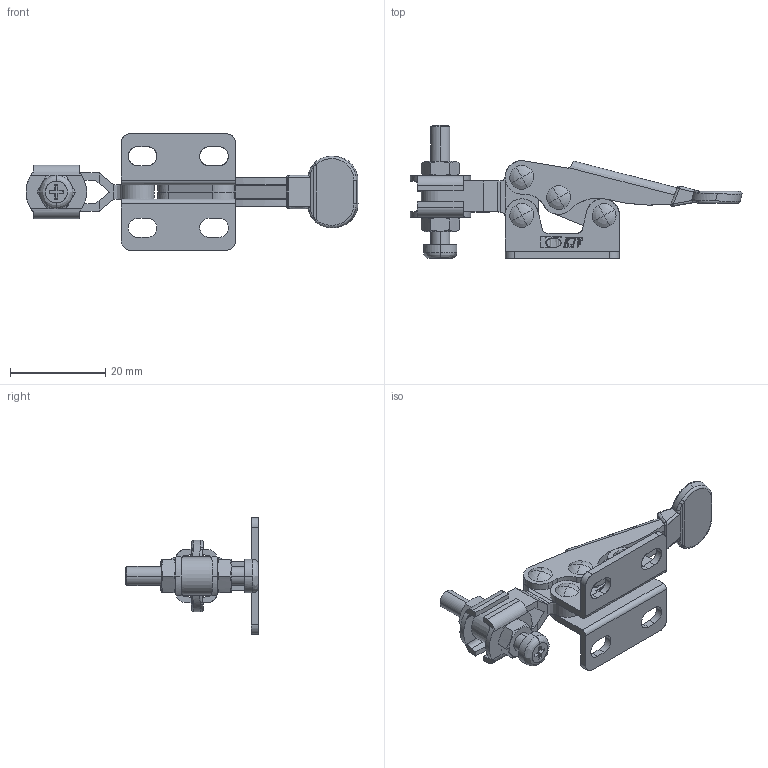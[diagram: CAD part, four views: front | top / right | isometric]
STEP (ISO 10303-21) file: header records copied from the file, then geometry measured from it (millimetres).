
FILE_DESCRIPTION(('CATIA V5 STEP Exchange'),'2;1');
FILE_NAME('\\Kjf-102\kjf_tc\Toggle_Clamp\GOODHAND\002-21FR\배포용\KJF-002-21FR.stp','2017-09-06T06:58:20+00:00',('none'),('none'),'CATIA Version 5 Release 19 SP 6 (IN-10)','CATIA V5 STEP AP214','none');
FILE_SCHEMA(('AUTOMOTIVE_DESIGN { 1 0 10303 214 1 1 1 1 }'));
Products named in the file (1): KJF-002-21FR
Bounding box: 69.65 x 27.9 x 24.5 mm (x, y, z)
Volume: 3447.3 mm3; surface area: 7185.9 mm2
Topology: 14 solids, 15 shells, 755 faces, 1740 edges, 1015 vertices
Faces by surface type: plane 434, bspline 246, cylinder 40, sphere 16, extrusion 11, cone 8
Entity records: 47348 total; most frequent: CARTESIAN_POINT 33110, ORIENTED_EDGE 3428, DIRECTION 1896, EDGE_CURVE 1715, VERTEX_POINT 1017, VECTOR 835, EDGE_LOOP 829, LINE 824
